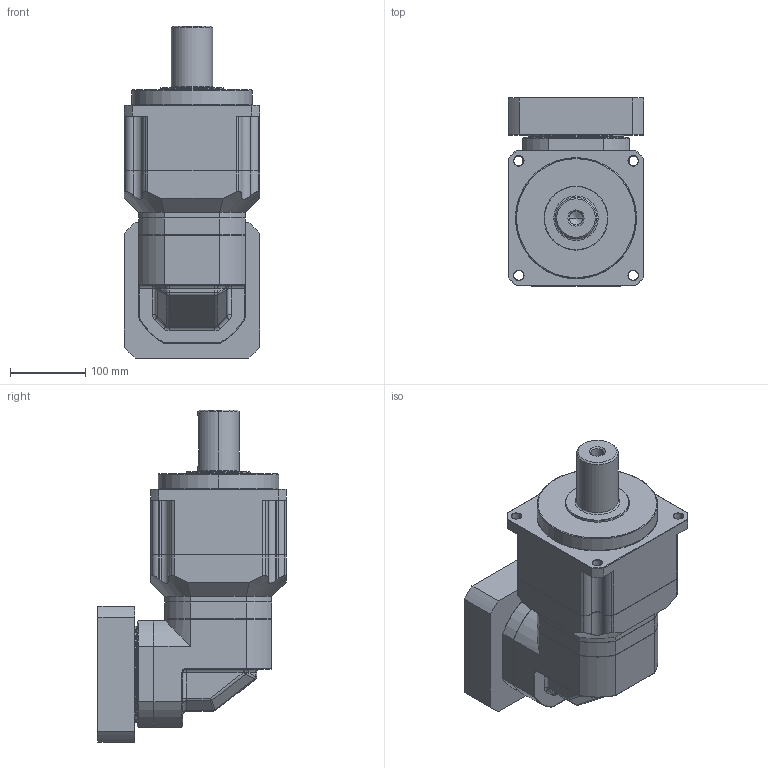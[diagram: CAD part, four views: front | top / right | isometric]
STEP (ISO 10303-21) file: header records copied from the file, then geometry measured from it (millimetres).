
FILE_DESCRIPTION (( 'STEP AP214' ), '1' );
FILE_NAME ('PAR180-L2-S2-P1 35-114.3-200-M12.STEP', '2025-02-15T06:49:10', ( '微软用户' ), ( '微软中国' ), 'SwSTEP 2.0', 'SolidWorks 2021', '' );
FILE_SCHEMA (( 'AUTOMOTIVE_DESIGN' ));
Length unit declared in the file: millimetre
Products named in the file (1): PAR180-L2-S2-P1 35-114.3-200-M12
Bounding box: 180 x 250 x 441 mm (x, y, z)
Volume: 9186509.1 mm3; surface area: 377378.3 mm2
Topology: 1 solids, 1 shells, 354 faces, 847 edges, 507 vertices
Faces by surface type: cylinder 144, plane 106, cone 76, torus 14, sphere 10, bspline 4
Entity records: 10675 total; most frequent: CARTESIAN_POINT 2400, DIRECTION 1803, ORIENTED_EDGE 1682, EDGE_CURVE 841, AXIS2_PLACEMENT_3D 716, VERTEX_POINT 507, EDGE_LOOP 380, LINE 371
